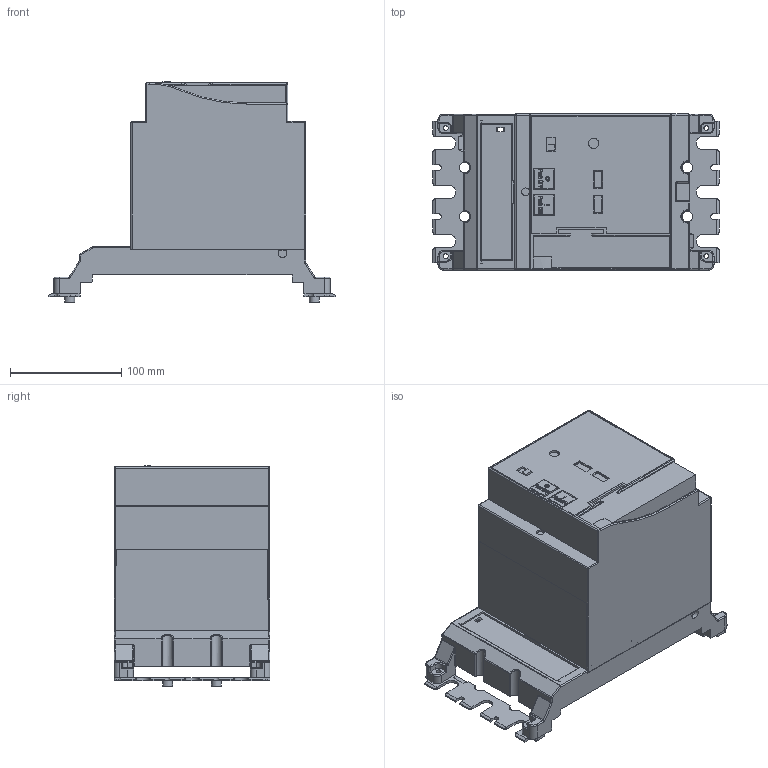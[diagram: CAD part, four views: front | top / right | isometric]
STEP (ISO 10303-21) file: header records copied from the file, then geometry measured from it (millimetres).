
FILE_DESCRIPTION(/* description */ (''),/* implementation_level */ '2;1');
FILE_NAME(/* name */ 'CM5-400(630)储能电操 2022.7.31.stp',/* time_stamp */ '2023-08-01T15:50:08+08:00',/* author */ (''),/* organization */ (''),/* preprocessor_version */ 'ST-DEVELOPER v16.7',/* originating_system */ 'SIEMENS PLM Software NX 12.0',/* authorisation */ '');
FILE_SCHEMA (('AUTOMOTIVE_DESIGN { 1 0 10303 214 3 1 1 1 }'));
Length unit declared in the file: millimetre
Products named in the file (1): _model1
Bounding box: 257 x 140 x 198 mm (x, y, z)
Volume: 3678855.1 mm3; surface area: 224550.7 mm2
Topology: 4 solids, 18 shells, 1252 faces, 3241 edges, 2052 vertices
Faces by surface type: plane 756, cylinder 331, extrusion 86, sphere 41, torus 22, bspline 16
Full cylindrical faces by diameter (mm): 1.6 x2, 2.4 x2, 2.9 x1, 3 x2, 4 x1, 4.2 x4, 4.3 x2, 4.5 x4, 5 x1, 5.5 x1, 6 x2, 7 x5, 8 x2, 9 x4, 9.2 x1
Entity records: 39051 total; most frequent: CARTESIAN_POINT 8398, ORIENTED_EDGE 6312, DIRECTION 6020, EDGE_CURVE 3156, VECTOR 2360, LINE 2274, VERTEX_POINT 2044, AXIS2_PLACEMENT_3D 1830
